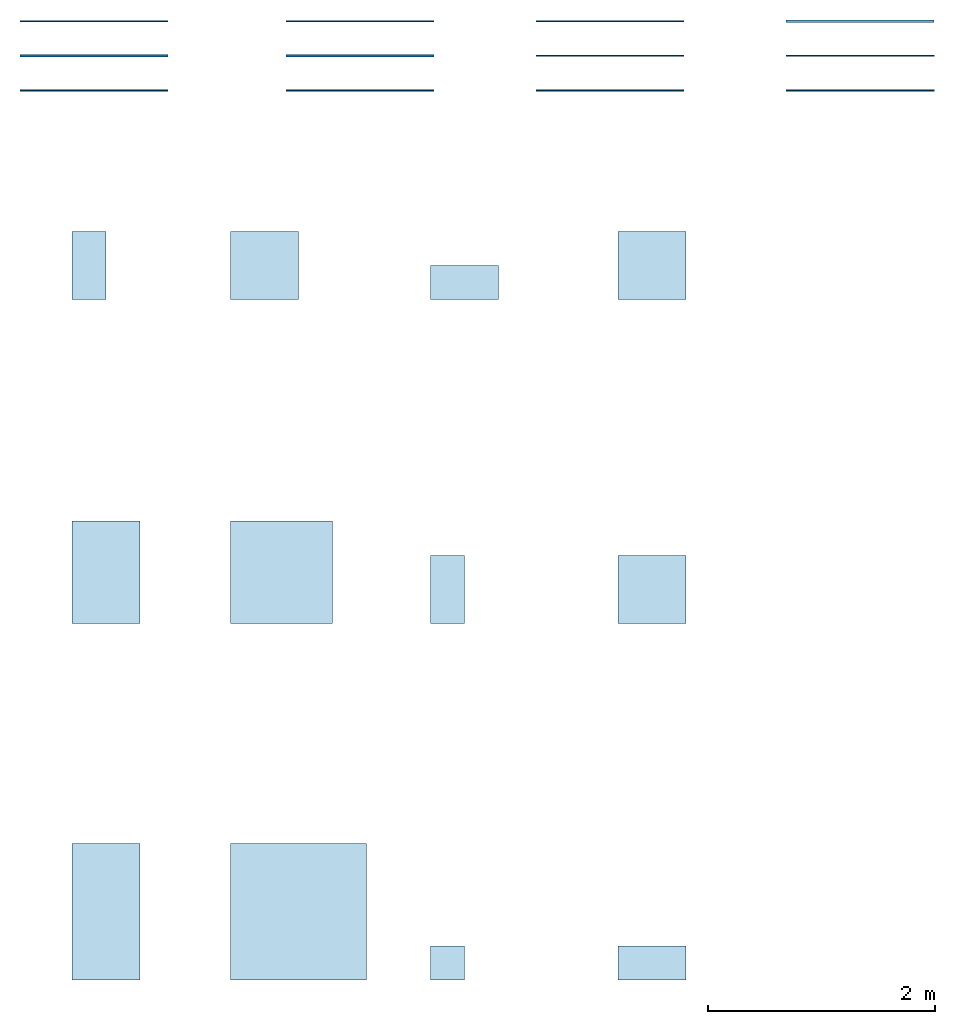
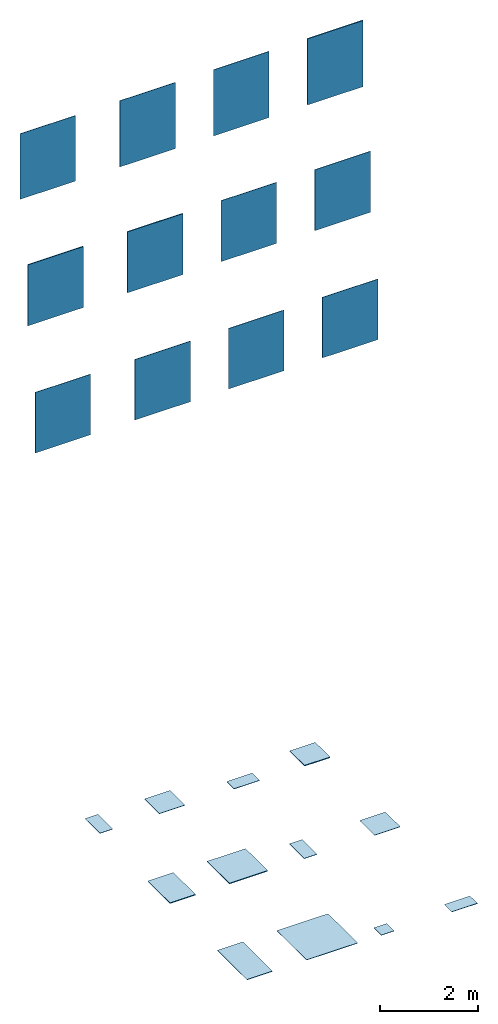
# One storey: 12 slabs, 12 walls.
"""IFC2X3 building model written with IfcOpenShell, lengths in millimetres."""

import ifcopenshell
import ifcopenshell.guid

model = None  # the IFC model being written
_history = None  # IfcOwnerHistory: only IFC2X3 demands one
_inside = {}  # id of a spatial element -> (the spatial element, [elements in it])
_under = {}  # id of a project, library or spatial element -> (it, [spatial elements below it])
_declared = {}  # id of a project -> (the project, [libraries it declares])
_typed = {}  # id of a type object -> (the type object, [elements of that type])
_made_of = {}  # id of a material, layer set ... -> (it, [elements and type objects made of it])


def new_model(schema):
    """Start an empty IFC model of exactly this schema.

    Asked for "IFC4X3", IfcOpenShell would pick the latest addendum, in which some entities
    have other attributes; the version numbers below select the first issue.
    IFC2X3 requires an IfcOwnerHistory on every rooted entity: one is made here for all.
    """
    global model, _history
    if schema == "IFC4X3":
        model = ifcopenshell.file(schema_version=(4, 3, 0, 0))
    else:
        model = ifcopenshell.file(schema=schema)
    _inside.clear()
    _under.clear()
    _declared.clear()
    _typed.clear()
    _made_of.clear()
    _history = None
    if model.schema == "IFC2X3":
        org = make("IfcOrganization", Name="unknown")
        user = make(
            "IfcPersonAndOrganization",
            ThePerson=make("IfcPerson", FamilyName="unknown"),
            TheOrganization=org,
        )
        app = make(
            "IfcApplication",
            ApplicationDeveloper=org,
            Version="unknown",
            ApplicationFullName="unknown",
            ApplicationIdentifier="unknown",
        )
        _history = make(
            "IfcOwnerHistory",
            OwningUser=user,
            OwningApplication=app,
            ChangeAction="ADDED",
            CreationDate=0,
        )
    return model


def make(cls, **values):
    """One entity of the class cls with the attributes given. An attribute that is None is left unset."""
    return model.create_entity(
        cls, **{name: value for name, value in values.items() if value is not None}
    )


def entity(cls, *values):
    """Any entity or typed value of the class cls, its attributes in the order of the schema. None: left unset."""
    e = model.create_entity(cls)
    for i, value in enumerate(values):
        if value is not None:
            e[i] = value
    return e


def rooted(cls, **values):
    """An entity with a GlobalId (a new one), such as an element, a storey or a relation."""
    return make(cls, GlobalId=ifcopenshell.guid.new(), OwnerHistory=_history, **values)


def si_unit(unit_type, name, prefix=None):
    """IfcSIUnit, for example si_unit("LENGTHUNIT", "METRE", prefix="MILLI")."""
    return make("IfcSIUnit", UnitType=unit_type, Prefix=prefix, Name=name)


def converted_unit(unit_type, name, factor, base, dimensions=None, offset=None):
    """IfcConversionBasedUnit, such as the inch: factor (a typed value) times the base unit."""
    return make(
        "IfcConversionBasedUnit"
        if offset is None
        else "IfcConversionBasedUnitWithOffset",
        ConversionOffset=offset,
        Dimensions=None
        if dimensions is None
        else entity("IfcDimensionalExponents", *dimensions),
        UnitType=unit_type,
        Name=name,
        ConversionFactor=make(
            "IfcMeasureWithUnit", ValueComponent=factor, UnitComponent=base
        ),
    )


def derived_unit(unit_type, elements):
    """IfcDerivedUnit: a product of units, each with its exponent."""
    return make(
        "IfcDerivedUnit",
        Elements=[
            make("IfcDerivedUnitElement", Unit=unit, Exponent=power)
            for unit, power in elements
        ],
        UnitType=unit_type,
    )


def assignment(units):
    """IfcUnitAssignment: the units of a project."""
    return None if units is None else make("IfcUnitAssignment", Units=units)


def point(xyz):
    """IfcCartesianPoint."""
    return None if xyz is None else make("IfcCartesianPoint", Coordinates=xyz)


def direction(xyz):
    """IfcDirection."""
    return None if xyz is None else make("IfcDirection", DirectionRatios=xyz)


def frame(location, z_axis=None, x_axis=None):
    """IfcAxis2Placement3D, a coordinate frame: its origin and axes. An axis left out is left unset."""
    return make(
        "IfcAxis2Placement3D",
        Location=point(location),
        Axis=direction(z_axis),
        RefDirection=direction(x_axis),
    )


def frame_2d(location, x_axis=None):
    """IfcAxis2Placement2D, a coordinate frame in the plane: its origin and x axis."""
    return make(
        "IfcAxis2Placement2D", Location=point(location), RefDirection=direction(x_axis)
    )


def origin():
    """The frame at (0, 0, 0) with its axes left unset."""
    return frame((0.0, 0.0, 0.0))


def origin_2d_with_axis():
    """The frame at (0, 0) in the plane with the x axis (1, 0) written out."""
    return frame_2d((0.0, 0.0), x_axis=(1.0, 0.0))


def place(relative_to, where):
    """IfcLocalPlacement: puts the frame where relative to a parent placement (None: the world)."""
    return make(
        "IfcLocalPlacement", PlacementRelTo=relative_to, RelativePlacement=where
    )


def context(
    kind, dimensions, precision=None, world=None, true_north=None, identifier=None
):
    """IfcGeometricRepresentationContext, for example the 3D "Model" context."""
    return make(
        "IfcGeometricRepresentationContext",
        ContextIdentifier=identifier,
        ContextType=kind,
        CoordinateSpaceDimension=dimensions,
        Precision=precision,
        WorldCoordinateSystem=world,
        TrueNorth=true_north,
    )


def subcontext(parent, identifier, kind, view, scale=None):
    """IfcGeometricRepresentationSubContext, for example "Body" below "Model"."""
    return make(
        "IfcGeometricRepresentationSubContext",
        ContextIdentifier=identifier,
        ContextType=kind,
        ParentContext=parent,
        TargetScale=scale,
        TargetView=view,
    )


def project(units=None, contexts=None):
    """IfcProject with its units and contexts."""
    return rooted(
        "IfcProject",
        Name="project",
        RepresentationContexts=contexts,
        UnitsInContext=assignment(units),
    )


def spatial(cls, under=None, at=None, **own):
    """A site, building, storey or space (cls), placed at a placement, below another one or the project."""
    s = rooted(cls, ObjectPlacement=at, **own)
    if under is not None:
        _under.setdefault(under.id(), (under, []))[1].append(s)
    return s


def profile(cls, at=None, kind="AREA", **sizes):
    """A parametric profile (cls). Its sizes go by their IFC names, for example OverallWidth=200.0."""
    return make(cls, ProfileType=kind, Position=at, **sizes)


def rectangle(**sizes):
    """IfcRectangleProfileDef."""
    return profile("IfcRectangleProfileDef", **sizes)


def extrude(swept, where, along, depth):
    """IfcExtrudedAreaSolid: the profile swept, set in the frame where, extruded along a direction by depth."""
    return make(
        "IfcExtrudedAreaSolid",
        SweptArea=swept,
        Position=where,
        ExtrudedDirection=direction(along),
        Depth=depth,
    )


def shape(context_of_items, identifier, shape_type, items):
    """IfcShapeRepresentation: the items that make up one representation, for example the "Body"."""
    return make(
        "IfcShapeRepresentation",
        ContextOfItems=context_of_items,
        RepresentationIdentifier=identifier,
        RepresentationType=shape_type,
        Items=items,
    )


def material(Name=None, Category=None):
    """IfcMaterial."""
    return make("IfcMaterial", Name=Name, Category=Category)


def layer(
    of_material, thickness, ventilated=None, Name=None, Category=None, Priority=None
):
    """IfcMaterialLayer: one layer of a wall or slab, of a material (None: an air gap)."""
    return make(
        "IfcMaterialLayer",
        Material=of_material,
        LayerThickness=thickness,
        IsVentilated=ventilated,
        Name=Name,
        Category=Category,
        Priority=Priority,
    )


def layer_set(layers, Name=None):
    """IfcMaterialLayerSet."""
    return make("IfcMaterialLayerSet", MaterialLayers=layers, LayerSetName=Name)


def layer_usage(for_layer_set, set_direction, sense, offset, extent=None):
    """IfcMaterialLayerSetUsage: how a layer set lies in its element."""
    return make(
        "IfcMaterialLayerSetUsage",
        ForLayerSet=for_layer_set,
        LayerSetDirection=set_direction,
        DirectionSense=sense,
        OffsetFromReferenceLine=offset,
        ReferenceExtent=extent,
    )


def made_of(thing, what):
    """Note that an element or type object is made of a material, layer set ...; save() writes the relation."""
    if what is not None:
        _made_of.setdefault(what.id(), (what, []))[1].append(thing)
    return thing


def type_object(cls, material=None, **own):
    """A type object (cls), such as IfcWallType, which elements share."""
    return made_of(rooted(cls, **own), material)


def element(
    cls,
    number,
    at=None,
    inside=None,
    cuts=None,
    type_object=None,
    material=None,
    context=None,
    identifier="Body",
    shape_type=None,
    held_by="IfcProductDefinitionShape",
    body=None,
    shapes=None,
    **own,
):
    """One element of the class cls, such as IfcWall. Its Tag is "e" and its number.

    at: its placement. inside: the storey or other place that contains it. cuts: it is an
    opening in that element (IfcRelVoidsElement). A single representation is given by context,
    identifier, shape_type and body (its items); several are given by shapes. held_by: the class
    of the entity that holds the representations. save() writes the other relations.
    """
    e = rooted(cls, Tag="e%d" % number, ObjectPlacement=at, **own)
    if body is not None:
        shapes = [shape(context, identifier, shape_type, body)]
    if shapes is not None:
        e.Representation = make(held_by, Representations=shapes)
    if inside is not None:
        _inside.setdefault(inside.id(), (inside, []))[1].append(e)
    if cuts is not None:
        rooted(
            "IfcRelVoidsElement", RelatingBuildingElement=cuts, RelatedOpeningElement=e
        )
    if type_object is not None:
        _typed.setdefault(type_object.id(), (type_object, []))[1].append(e)
    return made_of(e, material)


def aggregate(whole, parts):
    """IfcRelAggregates: a whole, such as a stair, and the parts it consists of."""
    return rooted("IfcRelAggregates", RelatingObject=whole, RelatedObjects=parts)


def save(model, path):
    """Write the relations noted so far, then the file.

    IfcRelAggregates (storeys below a building ...), IfcRelContainedInSpatialStructure (elements
    in a storey), IfcRelDefinesByType, IfcRelAssociatesMaterial and IfcRelDeclares: one each for
    every whole, place, type object, material and project.
    """
    for whole, parts in _under.values():
        aggregate(whole, parts)
    for where, things in _inside.values():
        rooted(
            "IfcRelContainedInSpatialStructure",
            RelatedElements=things,
            RelatingStructure=where,
        )
    for kind, things in _typed.values():
        rooted("IfcRelDefinesByType", RelatedObjects=things, RelatingType=kind)
    for what, things in _made_of.values():
        rooted("IfcRelAssociatesMaterial", RelatedObjects=things, RelatingMaterial=what)
    for by, libraries in _declared.values():
        rooted("IfcRelDeclares", RelatingContext=by, RelatedDefinitions=libraries)
    model.write(path)


model = new_model("IFC2X3")

# Units and contexts
model_context = context("Model", 3, precision=0.01, world=origin(), true_north=direction((6.12303176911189e-17, 1.0)))
body_context = subcontext(model_context, "Body", "Model", "MODEL_VIEW")
ifc_project = project(units=[si_unit("LENGTHUNIT", "METRE", prefix="MILLI"), si_unit("AREAUNIT", "SQUARE_METRE"), si_unit("VOLUMEUNIT", "CUBIC_METRE"), converted_unit("PLANEANGLEUNIT", "DEGREE", entity("IfcRatioMeasure", 0.0174532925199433), si_unit("PLANEANGLEUNIT", "RADIAN"), dimensions=[0, 0, 0, 0, 0, 0, 0]), si_unit("MASSUNIT", "GRAM", prefix="KILO"), derived_unit("MASSDENSITYUNIT", [(si_unit("MASSUNIT", "GRAM", prefix="KILO"), 1), (si_unit("LENGTHUNIT", "METRE"), -3)]), derived_unit("MOMENTOFINERTIAUNIT", [(si_unit("LENGTHUNIT", "METRE"), 4)]), si_unit("TIMEUNIT", "SECOND"), si_unit("FREQUENCYUNIT", "HERTZ"), si_unit("THERMODYNAMICTEMPERATUREUNIT", "DEGREE_CELSIUS"), derived_unit("THERMALTRANSMITTANCEUNIT", [(si_unit("MASSUNIT", "GRAM", prefix="KILO"), 1), (si_unit("THERMODYNAMICTEMPERATUREUNIT", "KELVIN"), -1), (si_unit("TIMEUNIT", "SECOND"), -3)]), derived_unit("VOLUMETRICFLOWRATEUNIT", [(si_unit("LENGTHUNIT", "METRE"), 3), (si_unit("TIMEUNIT", "SECOND"), -1)]), si_unit("ELECTRICCURRENTUNIT", "AMPERE"), si_unit("ELECTRICVOLTAGEUNIT", "VOLT"), si_unit("POWERUNIT", "WATT"), si_unit("FORCEUNIT", "NEWTON", prefix="KILO"), si_unit("ILLUMINANCEUNIT", "LUX"), si_unit("LUMINOUSFLUXUNIT", "LUMEN"), si_unit("LUMINOUSINTENSITYUNIT", "CANDELA"), derived_unit("USERDEFINED", [(si_unit("MASSUNIT", "GRAM", prefix="KILO"), -1), (si_unit("LENGTHUNIT", "METRE"), -2), (si_unit("TIMEUNIT", "SECOND"), 3), (si_unit("LUMINOUSFLUXUNIT", "LUMEN"), 1)]), derived_unit("LINEARVELOCITYUNIT", [(si_unit("LENGTHUNIT", "METRE"), 1), (si_unit("TIMEUNIT", "SECOND"), -1)]), si_unit("PRESSUREUNIT", "PASCAL"), derived_unit("USERDEFINED", [(si_unit("LENGTHUNIT", "METRE"), -2), (si_unit("MASSUNIT", "GRAM", prefix="KILO"), 1), (si_unit("TIMEUNIT", "SECOND"), -2)]), derived_unit("LINEARFORCEUNIT", [(si_unit("MASSUNIT", "GRAM", prefix="KILO"), 1), (si_unit("LENGTHUNIT", "METRE"), 1), (si_unit("TIMEUNIT", "SECOND"), -2), (si_unit("LENGTHUNIT", "METRE"), -1)]), derived_unit("PLANARFORCEUNIT", [(si_unit("MASSUNIT", "GRAM", prefix="KILO"), 1), (si_unit("LENGTHUNIT", "METRE"), 1), (si_unit("TIMEUNIT", "SECOND"), -2), (si_unit("LENGTHUNIT", "METRE"), -2)])], contexts=[model_context])

# Site, building, storey
site_placement = place(None, origin())
site = spatial("IfcSite", under=ifc_project, at=site_placement, Name="Default", CompositionType="ELEMENT")
building_placement = place(site_placement, origin())
building = spatial("IfcBuilding", under=site, at=building_placement, CompositionType="ELEMENT")
storey_placement = place(building_placement, origin())
storey = spatial("IfcBuildingStorey", under=building, at=storey_placement, Name="Level 0", CompositionType="ELEMENT", Elevation=0.0)

# Slabs
ifc_material_1 = material(Name="Tune-Lava-Muretto-3D-30x60 MK48")
ifc_layer_1 = layer(ifc_material_1, 10.0)
ifc_material_2 = material(Name="<Unnamed>")
ifc_layer_2 = layer(ifc_material_2, 1.0)
ifc_layer_set_1 = layer_set([ifc_layer_1, ifc_layer_2], Name="Floor:Floor_Tiles_Refin-Tune-Lava-Muretto-3D-30x60 MK48")
ifc_layer_usage_1 = layer_usage(ifc_layer_set_1, "AXIS3", "POSITIVE", 0.0)
slab_type_1 = type_object("IfcSlabType", Name="Floor:Floor_Tiles_Refin-Tune-Lava-Muretto-3D-30x60 MK48", PredefinedType="FLOOR", material=ifc_layer_set_1)
slab_1_placement = place(storey_placement, origin())
element("IfcSlab", 1, at=slab_1_placement, inside=storey, type_object=slab_type_1, material=ifc_layer_usage_1, Name="Floor:Floor_Tiles_Refin-Tune-Lava-Muretto-3D-30x60 MK48", ObjectType="Floor:Floor_Tiles_Refin-Tune-Lava-Muretto-3D-30x60 MK48", PredefinedType="FLOOR", context=body_context, shape_type="SweptSolid", body=[
    extrude(rectangle(XDim=300.0, YDim=600.0, at=frame_2d((-5.40012479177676e-13, 1.08002495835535e-12), x_axis=(1.0, 0.0))), frame((9827.18614186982, 5839.46237428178, 0.0), z_axis=(0.0, 0.0, -1.0), x_axis=(0.0, 1.0, 0.0)), (0.0, 0.0, 1.0), 11.0),
])
ifc_material_3 = material(Name="Tune-Lava-30x60 NB07")
ifc_layer_3 = layer(ifc_material_3, 9.0)
ifc_layer_4 = layer(ifc_material_2, 1.0)
ifc_layer_set_2 = layer_set([ifc_layer_3, ifc_layer_4], Name="Floor:Floor_Tiles_Refin-Tune-Lava-30x60 NB07")
ifc_layer_usage_2 = layer_usage(ifc_layer_set_2, "AXIS3", "POSITIVE", 0.0)
slab_type_2 = type_object("IfcSlabType", Name="Floor:Floor_Tiles_Refin-Tune-Lava-30x60 NB07", PredefinedType="FLOOR", material=ifc_layer_set_2)
slab_2_placement = place(storey_placement, origin())
element("IfcSlab", 2, at=slab_2_placement, inside=storey, type_object=slab_type_2, material=ifc_layer_usage_2, Name="Floor:Floor_Tiles_Refin-Tune-Lava-30x60 NB07", ObjectType="Floor:Floor_Tiles_Refin-Tune-Lava-30x60 NB07", PredefinedType="FLOOR", context=body_context, shape_type="SweptSolid", body=[
    extrude(rectangle(XDim=600.0, YDim=300.0, at=frame_2d((0.0, -5.40012479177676e-13), x_axis=(1.0, 0.0))), frame((6524.37520617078, 5989.4623742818, 0.0), z_axis=(0.0, 0.0, -1.0), x_axis=(0.0, 1.0, 0.0)), (0.0, 0.0, 1.0), 10.0),
])
ifc_material_4 = material(Name="Tune-Lava-OUT2.0-90x90 NA07")
ifc_layer_5 = layer(ifc_material_4, 20.0)
ifc_layer_6 = layer(ifc_material_2, 1.0)
ifc_layer_set_3 = layer_set([ifc_layer_5, ifc_layer_6], Name="Floor:Floor_Tiles_Refin-Tune-Lava-OUT2.0-90x90 NA07")
ifc_layer_usage_3 = layer_usage(ifc_layer_set_3, "AXIS3", "POSITIVE", 0.0)
slab_type_3 = type_object("IfcSlabType", Name="Floor:Floor_Tiles_Refin-Tune-Lava-OUT2.0-90x90 NA07", PredefinedType="FLOOR", material=ifc_layer_set_3)
slab_3_placement = place(storey_placement, origin())
element("IfcSlab", 3, at=slab_3_placement, inside=storey, type_object=slab_type_3, material=ifc_layer_usage_3, Name="Floor:Floor_Tiles_Refin-Tune-Lava-OUT2.0-90x90 NA07", ObjectType="Floor:Floor_Tiles_Refin-Tune-Lava-OUT2.0-90x90 NA07", PredefinedType="FLOOR", context=body_context, shape_type="SweptSolid", body=[
    extrude(rectangle(XDim=900.0, YDim=900.0, at=frame_2d((0.0, 5.40012479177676e-13), x_axis=(1.0, 0.0))), frame((8217.39240545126, 3289.4623742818, 0.0), z_axis=(0.0, 0.0, -1.0), x_axis=(0.0, 1.0, 0.0)), (0.0, 0.0, 1.0), 21.0),
])
ifc_material_5 = material(Name="Tune-Lava-OUT2.0-60x90 NH50")
ifc_layer_7 = layer(ifc_material_5, 20.0)
ifc_layer_8 = layer(ifc_material_2, 1.0)
ifc_layer_set_4 = layer_set([ifc_layer_7, ifc_layer_8], Name="Floor:Floor_Tiles_Refin-Tune-Lava-OUT2.0-60x90 NH50")
ifc_layer_usage_4 = layer_usage(ifc_layer_set_4, "AXIS3", "POSITIVE", 0.0)
slab_type_4 = type_object("IfcSlabType", Name="Floor:Floor_Tiles_Refin-Tune-Lava-OUT2.0-60x90 NH50", PredefinedType="FLOOR", material=ifc_layer_set_4)
slab_4_placement = place(storey_placement, origin())
element("IfcSlab", 4, at=slab_4_placement, inside=storey, type_object=slab_type_4, material=ifc_layer_usage_4, Name="Floor:Floor_Tiles_Refin-Tune-Lava-OUT2.0-60x90 NH50", ObjectType="Floor:Floor_Tiles_Refin-Tune-Lava-OUT2.0-60x90 NH50", PredefinedType="FLOOR", context=body_context, shape_type="SweptSolid", body=[
    extrude(rectangle(XDim=900.0, YDim=600.0, at=frame_2d((-5.40012479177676e-13, 1.08002495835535e-12), x_axis=(1.0, 0.0))), frame((6674.37520617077, 3289.4623742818, 0.0), z_axis=(0.0, 0.0, -1.0), x_axis=(0.0, 1.0, 0.0)), (0.0, 0.0, 1.0), 21.0),
])
ifc_material_6 = material(Name="Tune-Lava-60x60 NB19")
ifc_layer_9 = layer(ifc_material_6, 9.0)
ifc_layer_10 = layer(ifc_material_2, 1.0)
ifc_layer_set_5 = layer_set([ifc_layer_9, ifc_layer_10], Name="Floor:Floor_Tiles_Refin-Tune-Lava-60x60 NB19")
ifc_layer_usage_5 = layer_usage(ifc_layer_set_5, "AXIS3", "POSITIVE", 0.0)
slab_type_5 = type_object("IfcSlabType", Name="Floor:Floor_Tiles_Refin-Tune-Lava-60x60 NB19", PredefinedType="FLOOR", material=ifc_layer_set_5)
slab_5_placement = place(storey_placement, origin())
element("IfcSlab", 5, at=slab_5_placement, inside=storey, type_object=slab_type_5, material=ifc_layer_usage_5, Name="Floor:Floor_Tiles_Refin-Tune-Lava-60x60 NB19", ObjectType="Floor:Floor_Tiles_Refin-Tune-Lava-60x60 NB19", PredefinedType="FLOOR", context=body_context, shape_type="SweptSolid", body=[
    extrude(rectangle(XDim=600.0, YDim=600.0, at=origin_2d_with_axis()), frame((8067.39240545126, 5988.41920639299, 0.0), z_axis=(0.0, 0.0, -1.0), x_axis=(0.0, 1.0, 0.0)), (0.0, 0.0, 1.0), 10.0),
])
ifc_material_7 = material(Name="Tune-Lava-Soft-60x120 NA86")
ifc_layer_11 = layer(ifc_material_7, 9.0)
ifc_layer_12 = layer(ifc_material_2, 1.0)
ifc_layer_set_6 = layer_set([ifc_layer_11, ifc_layer_12], Name="Floor:Floor_Tiles_Refin-Tune-Lava-Soft-60x120 NA86")
ifc_layer_usage_6 = layer_usage(ifc_layer_set_6, "AXIS3", "POSITIVE", 0.0)
slab_type_6 = type_object("IfcSlabType", Name="Floor:Floor_Tiles_Refin-Tune-Lava-Soft-60x120 NA86", PredefinedType="FLOOR", material=ifc_layer_set_6)
slab_6_placement = place(storey_placement, origin())
element("IfcSlab", 6, at=slab_6_placement, inside=storey, type_object=slab_type_6, material=ifc_layer_usage_6, Name="Floor:Floor_Tiles_Refin-Tune-Lava-Soft-60x120 NA86", ObjectType="Floor:Floor_Tiles_Refin-Tune-Lava-Soft-60x120 NA86", PredefinedType="FLOOR", context=body_context, shape_type="SweptSolid", body=[
    extrude(rectangle(XDim=1200.0, YDim=600.0, at=frame_2d((0.0, 1.08002495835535e-12), x_axis=(1.0, 0.0))), frame((6672.60093306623, 303.436723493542, 0.0), z_axis=(0.0, 0.0, -1.0), x_axis=(0.0, 1.0, 0.0)), (0.0, 0.0, 1.0), 10.0),
])
ifc_material_8 = material(Name="Tune-Lava-OUT2.0-60x60 NH54")
ifc_layer_13 = layer(ifc_material_8, 20.0)
ifc_layer_14 = layer(ifc_material_2, 1.0)
ifc_layer_set_7 = layer_set([ifc_layer_13, ifc_layer_14], Name="Floor:Floor_Tiles_Refin-Tune-Lava-OUT2.0-60x60 NH54")
ifc_layer_usage_7 = layer_usage(ifc_layer_set_7, "AXIS3", "POSITIVE", 0.0)
slab_type_7 = type_object("IfcSlabType", Name="Floor:Floor_Tiles_Refin-Tune-Lava-OUT2.0-60x60 NH54", PredefinedType="FLOOR", material=ifc_layer_set_7)
slab_7_placement = place(storey_placement, origin())
element("IfcSlab", 7, at=slab_7_placement, inside=storey, type_object=slab_type_7, material=ifc_layer_usage_7, Name="Floor:Floor_Tiles_Refin-Tune-Lava-OUT2.0-60x60 NH54", ObjectType="Floor:Floor_Tiles_Refin-Tune-Lava-OUT2.0-60x60 NH54", PredefinedType="FLOOR", context=body_context, shape_type="SweptSolid", body=[
    extrude(rectangle(XDim=600.0, YDim=600.0, at=frame_2d((0.0, 1.08002495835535e-12), x_axis=(1.0, 0.0))), frame((11477.1861418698, 5989.46237428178, 0.0), z_axis=(0.0, 0.0, -1.0), x_axis=(0.0, 1.0, 0.0)), (0.0, 0.0, 1.0), 21.0),
])
ifc_material_9 = material(Name="Tune-Lava-Soft-30x60 NB08")
ifc_layer_15 = layer(ifc_material_9, 9.0)
ifc_layer_16 = layer(ifc_material_2, 1.0)
ifc_layer_set_8 = layer_set([ifc_layer_15, ifc_layer_16], Name="Floor:Floor_Tiles_Refin-Tune-Lava-Soft-30x60 NB08")
ifc_layer_usage_8 = layer_usage(ifc_layer_set_8, "AXIS3", "POSITIVE", 0.0)
slab_type_8 = type_object("IfcSlabType", Name="Floor:Floor_Tiles_Refin-Tune-Lava-Soft-30x60 NB08", PredefinedType="FLOOR", material=ifc_layer_set_8)
slab_8_placement = place(storey_placement, origin())
element("IfcSlab", 8, at=slab_8_placement, inside=storey, type_object=slab_type_8, material=ifc_layer_usage_8, Name="Floor:Floor_Tiles_Refin-Tune-Lava-Soft-30x60 NB08", ObjectType="Floor:Floor_Tiles_Refin-Tune-Lava-Soft-30x60 NB08", PredefinedType="FLOOR", context=body_context, shape_type="SweptSolid", body=[
    extrude(rectangle(XDim=600.0, YDim=300.000000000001, at=origin_2d_with_axis()), frame((9677.18614186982, 3139.46237428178, 0.0), z_axis=(0.0, 0.0, -1.0), x_axis=(0.0, 1.0, 0.0)), (0.0, 0.0, 1.0), 10.0),
])
ifc_material_10 = material(Name="Tune-Lava-Mosaico-Soft-30x30 NA42")
ifc_layer_17 = layer(ifc_material_10, 9.0)
ifc_layer_18 = layer(ifc_material_2, 1.0)
ifc_layer_set_9 = layer_set([ifc_layer_17, ifc_layer_18], Name="Floor:Floor_Tiles_Refin-Tune-Lava-Mosaico-Soft-30x30 NA42")
ifc_layer_usage_9 = layer_usage(ifc_layer_set_9, "AXIS3", "POSITIVE", 0.0)
slab_type_9 = type_object("IfcSlabType", Name="Floor:Floor_Tiles_Refin-Tune-Lava-Mosaico-Soft-30x30 NA42", PredefinedType="FLOOR", material=ifc_layer_set_9)
slab_9_placement = place(storey_placement, origin())
element("IfcSlab", 9, at=slab_9_placement, inside=storey, type_object=slab_type_9, material=ifc_layer_usage_9, Name="Floor:Floor_Tiles_Refin-Tune-Lava-Mosaico-Soft-30x30 NA42", ObjectType="Floor:Floor_Tiles_Refin-Tune-Lava-Mosaico-Soft-30x30 NA42", PredefinedType="FLOOR", context=body_context, shape_type="SweptSolid", body=[
    extrude(rectangle(XDim=300.0, YDim=300.000000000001, at=origin_2d_with_axis()), frame((9677.18614186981, -146.563276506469, 0.0), z_axis=(0.0, 0.0, -1.0), x_axis=(0.0, 1.0, 0.0)), (0.0, 0.0, 1.0), 10.0),
])
ifc_material_11 = material(Name="Tune-Lava-Soft-60x60 NB20")
ifc_layer_19 = layer(ifc_material_11, 9.0)
ifc_layer_20 = layer(ifc_material_2, 1.0)
ifc_layer_set_10 = layer_set([ifc_layer_19, ifc_layer_20], Name="Floor:Floor_Tiles_Refin-Tune-Lava-Soft-60x60 NB20")
ifc_layer_usage_10 = layer_usage(ifc_layer_set_10, "AXIS3", "POSITIVE", 0.0)
slab_type_10 = type_object("IfcSlabType", Name="Floor:Floor_Tiles_Refin-Tune-Lava-Soft-60x60 NB20", PredefinedType="FLOOR", material=ifc_layer_set_10)
slab_10_placement = place(storey_placement, origin())
element("IfcSlab", 10, at=slab_10_placement, inside=storey, type_object=slab_type_10, material=ifc_layer_usage_10, Name="Floor:Floor_Tiles_Refin-Tune-Lava-Soft-60x60 NB20", ObjectType="Floor:Floor_Tiles_Refin-Tune-Lava-Soft-60x60 NB20", PredefinedType="FLOOR", context=body_context, shape_type="SweptSolid", body=[
    extrude(rectangle(XDim=600.0, YDim=600.0, at=frame_2d((0.0, 1.08002495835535e-12), x_axis=(1.0, 0.0))), frame((11477.1861418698, 3139.46237428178, 0.0), z_axis=(0.0, 0.0, -1.0), x_axis=(0.0, 1.0, 0.0)), (0.0, 0.0, 1.0), 10.0),
])
ifc_material_12 = material(Name="Tune-Lava-Soft-120x120 MK13")
ifc_layer_21 = layer(ifc_material_12, 9.0)
ifc_layer_22 = layer(ifc_material_2, 1.0)
ifc_layer_set_11 = layer_set([ifc_layer_21, ifc_layer_22], Name="Floor:Floor_Tiles_Refin-Tune-Lava-Soft-120x120 MK13")
ifc_layer_usage_11 = layer_usage(ifc_layer_set_11, "AXIS3", "POSITIVE", 0.0)
slab_type_11 = type_object("IfcSlabType", Name="Floor:Floor_Tiles_Refin-Tune-Lava-Soft-120x120 MK13", PredefinedType="FLOOR", material=ifc_layer_set_11)
slab_11_placement = place(storey_placement, origin())
element("IfcSlab", 11, at=slab_11_placement, inside=storey, type_object=slab_type_11, material=ifc_layer_usage_11, Name="Floor:Floor_Tiles_Refin-Tune-Lava-Soft-120x120 MK13", ObjectType="Floor:Floor_Tiles_Refin-Tune-Lava-Soft-120x120 MK13", PredefinedType="FLOOR", context=body_context, shape_type="SweptSolid", body=[
    extrude(rectangle(XDim=1200.0, YDim=1200.0, at=origin_2d_with_axis()), frame((8367.39240545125, 303.436723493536, 0.0), z_axis=(0.0, 0.0, -1.0), x_axis=(0.0, 1.0, 0.0)), (0.0, 0.0, 1.0), 10.0),
])
ifc_material_13 = material(Name="Tune-Lava-Mosaico-Linea-Soft-30x60 NA21")
ifc_layer_23 = layer(ifc_material_13, 9.0)
ifc_layer_24 = layer(ifc_material_2, 1.0)
ifc_layer_set_12 = layer_set([ifc_layer_23, ifc_layer_24], Name="Floor:Floor_Tiles_Refin-Tune-Lava-Mosaico-Linea-Soft-30x60 NA21")
ifc_layer_usage_12 = layer_usage(ifc_layer_set_12, "AXIS3", "POSITIVE", 0.0)
slab_type_12 = type_object("IfcSlabType", Name="Floor:Floor_Tiles_Refin-Tune-Lava-Mosaico-Linea-Soft-30x60 NA21", PredefinedType="FLOOR", material=ifc_layer_set_12)
slab_12_placement = place(storey_placement, origin())
element("IfcSlab", 12, at=slab_12_placement, inside=storey, type_object=slab_type_12, material=ifc_layer_usage_12, Name="Floor:Floor_Tiles_Refin-Tune-Lava-Mosaico-Linea-Soft-30x60 NA21", ObjectType="Floor:Floor_Tiles_Refin-Tune-Lava-Mosaico-Linea-Soft-30x60 NA21", PredefinedType="FLOOR", context=body_context, shape_type="SweptSolid", body=[
    extrude(rectangle(XDim=300.0, YDim=600.0, at=frame_2d((0.0, 1.08002495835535e-12), x_axis=(1.0, 0.0))), frame((11477.1861418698, -146.563276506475, 0.0), z_axis=(0.0, 0.0, -1.0), x_axis=(0.0, 1.0, 0.0)), (0.0, 0.0, 1.0), 10.0),
])

# Walls
ifc_layer_25 = layer(ifc_material_2, 1.0)
ifc_layer_26 = layer(ifc_material_6, 9.0)
ifc_layer_set_13 = layer_set([ifc_layer_25, ifc_layer_26], Name="Basic Wall:Wall_Tiles_Refin-Tune-Lava-60x60 NB19")
ifc_layer_usage_13 = layer_usage(ifc_layer_set_13, "AXIS2", "NEGATIVE", 5.0)
wall_type_1 = type_object("IfcWallType", Name="Basic Wall:Wall_Tiles_Refin-Tune-Lava-60x60 NB19", PredefinedType="STANDARD", material=ifc_layer_set_13)
wall_1_placement = place(storey_placement, frame((8257.37520617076, 8137.38386313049, 14387.6770443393)))
element("IfcWallStandardCase", 13, at=wall_1_placement, inside=storey, type_object=wall_type_1, material=ifc_layer_usage_13, Name="Basic Wall:Wall_Tiles_Refin-Tune-Lava-60x60 NB19", ObjectType="Basic Wall:Wall_Tiles_Refin-Tune-Lava-60x60 NB19", context=body_context, shape_type="SweptSolid", body=[
    extrude(rectangle(XDim=1300.0, YDim=9.99999999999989, at=frame_2d((650.0, 7.63833440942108e-14), x_axis=(-1.0, 0.0))), origin(), (0.0, 0.0, 1.0), 1641.74173522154),
])
ifc_layer_27 = layer(ifc_material_2, 1.0)
ifc_layer_28 = layer(ifc_material_1, 10.0)
ifc_layer_set_14 = layer_set([ifc_layer_27, ifc_layer_28], Name="Basic Wall:Wall_Tiles_Refin-Tune-Lava-Muretto-3D-30x60 MK48")
ifc_layer_usage_14 = layer_usage(ifc_layer_set_14, "AXIS2", "NEGATIVE", 5.5)
wall_type_2 = type_object("IfcWallType", Name="Basic Wall:Wall_Tiles_Refin-Tune-Lava-Muretto-3D-30x60 MK48", PredefinedType="STANDARD", material=ifc_layer_set_14)
wall_2_placement = place(storey_placement, frame((10457.3752061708, 8137.38386313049, 14387.6770443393)))
element("IfcWallStandardCase", 14, at=wall_2_placement, inside=storey, type_object=wall_type_2, material=ifc_layer_usage_14, Name="Basic Wall:Wall_Tiles_Refin-Tune-Lava-Muretto-3D-30x60 MK48", ObjectType="Basic Wall:Wall_Tiles_Refin-Tune-Lava-Muretto-3D-30x60 MK48", context=body_context, shape_type="SweptSolid", body=[
    extrude(rectangle(XDim=1300.0, YDim=10.9999999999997, at=frame_2d((650.0, 7.63833440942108e-14), x_axis=(-1.0, 0.0))), origin(), (0.0, 0.0, 1.0), 1641.74173522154),
])
ifc_layer_29 = layer(ifc_material_2, 1.0)
ifc_layer_30 = layer(ifc_material_3, 9.0)
ifc_layer_set_15 = layer_set([ifc_layer_29, ifc_layer_30], Name="Basic Wall:Wall_Tiles_Refin-Tune-Lava-30x60 NB07")
ifc_layer_usage_15 = layer_usage(ifc_layer_set_15, "AXIS2", "NEGATIVE", 5.0)
wall_type_3 = type_object("IfcWallType", Name="Basic Wall:Wall_Tiles_Refin-Tune-Lava-30x60 NB07", PredefinedType="STANDARD", material=ifc_layer_set_15)
wall_3_placement = place(storey_placement, frame((5917.37520617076, 8137.38386313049, 14403.726734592)))
element("IfcWallStandardCase", 15, at=wall_3_placement, inside=storey, type_object=wall_type_3, material=ifc_layer_usage_15, Name="Basic Wall:Wall_Tiles_Refin-Tune-Lava-30x60 NB07", ObjectType="Basic Wall:Wall_Tiles_Refin-Tune-Lava-30x60 NB07", context=body_context, shape_type="SweptSolid", body=[
    extrude(rectangle(XDim=1300.0, YDim=9.99999999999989, at=frame_2d((650.0, 7.63833440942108e-14), x_axis=(-1.0, 0.0))), origin(), (0.0, 0.0, 1.0), 1625.69204496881),
])
ifc_layer_31 = layer(ifc_material_2, 1.0)
ifc_layer_32 = layer(ifc_material_5, 20.0)
ifc_layer_set_16 = layer_set([ifc_layer_31, ifc_layer_32], Name="Basic Wall:Wall_Tiles_Refin-Tune-Lava-OUT2.0-60x90 NH50")
ifc_layer_usage_16 = layer_usage(ifc_layer_set_16, "AXIS2", "NEGATIVE", 10.5)
wall_type_4 = type_object("IfcWallType", Name="Basic Wall:Wall_Tiles_Refin-Tune-Lava-OUT2.0-60x90 NH50", PredefinedType="STANDARD", material=ifc_layer_set_16)
wall_4_placement = place(storey_placement, frame((5917.37520617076, 7832.38386313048, 11452.5436262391)))
element("IfcWallStandardCase", 16, at=wall_4_placement, inside=storey, type_object=wall_type_4, material=ifc_layer_usage_16, Name="Basic Wall:Wall_Tiles_Refin-Tune-Lava-OUT2.0-60x90 NH50", ObjectType="Basic Wall:Wall_Tiles_Refin-Tune-Lava-OUT2.0-60x90 NH50", context=body_context, shape_type="SweptSolid", body=[
    extrude(rectangle(XDim=1300.0, YDim=20.9999999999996, at=frame_2d((650.0, 0.0), x_axis=(-1.0, 0.0))), origin(), (0.0, 0.0, 1.0), 1513.19855655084),
])
ifc_layer_33 = layer(ifc_material_2, 1.0)
ifc_layer_34 = layer(ifc_material_4, 20.0)
ifc_layer_set_17 = layer_set([ifc_layer_33, ifc_layer_34], Name="Basic Wall:Wall_Tiles_Refin-Tune-Lava-OUT2.0-90x90 NA07")
ifc_layer_usage_17 = layer_usage(ifc_layer_set_17, "AXIS2", "NEGATIVE", 10.5)
wall_type_5 = type_object("IfcWallType", Name="Basic Wall:Wall_Tiles_Refin-Tune-Lava-OUT2.0-90x90 NA07", PredefinedType="STANDARD", material=ifc_layer_set_17)
wall_5_placement = place(storey_placement, frame((8257.37520617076, 7832.38386313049, 11452.5436262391)))
element("IfcWallStandardCase", 17, at=wall_5_placement, inside=storey, type_object=wall_type_5, material=ifc_layer_usage_17, Name="Basic Wall:Wall_Tiles_Refin-Tune-Lava-OUT2.0-90x90 NA07", ObjectType="Basic Wall:Wall_Tiles_Refin-Tune-Lava-OUT2.0-90x90 NA07", context=body_context, shape_type="SweptSolid", body=[
    extrude(rectangle(XDim=1300.0, YDim=20.9999999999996, at=frame_2d((650.0, 0.0), x_axis=(-1.0, 0.0))), origin(), (0.0, 0.0, 1.0), 1513.19855655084),
])
ifc_layer_35 = layer(ifc_material_2, 1.0)
ifc_layer_36 = layer(ifc_material_9, 9.0)
ifc_layer_set_18 = layer_set([ifc_layer_35, ifc_layer_36], Name="Basic Wall:Wall_Tiles_Refin-Tune-Lava-Soft-30x60 NB08")
ifc_layer_usage_18 = layer_usage(ifc_layer_set_18, "AXIS2", "NEGATIVE", 5.0)
wall_type_6 = type_object("IfcWallType", Name="Basic Wall:Wall_Tiles_Refin-Tune-Lava-Soft-30x60 NB08", PredefinedType="STANDARD", material=ifc_layer_set_18)
wall_6_placement = place(storey_placement, frame((10457.3752061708, 7832.38386313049, 11452.5436262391)))
element("IfcWallStandardCase", 18, at=wall_6_placement, inside=storey, type_object=wall_type_6, material=ifc_layer_usage_18, Name="Basic Wall:Wall_Tiles_Refin-Tune-Lava-Soft-30x60 NB08", ObjectType="Basic Wall:Wall_Tiles_Refin-Tune-Lava-Soft-30x60 NB08", context=body_context, shape_type="SweptSolid", body=[
    extrude(rectangle(XDim=1300.0, YDim=9.99999999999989, at=frame_2d((650.000000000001, 0.0), x_axis=(-1.0, 0.0))), origin(), (0.0, 0.0, 1.0), 1513.19855655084),
])
ifc_layer_37 = layer(ifc_material_2, 1.0)
ifc_layer_38 = layer(ifc_material_7, 9.0)
ifc_layer_set_19 = layer_set([ifc_layer_37, ifc_layer_38], Name="Basic Wall:Wall_Tiles_Refin-Tune-Lava-Soft-60x120 NA86")
ifc_layer_usage_19 = layer_usage(ifc_layer_set_19, "AXIS2", "NEGATIVE", 5.0)
wall_type_7 = type_object("IfcWallType", Name="Basic Wall:Wall_Tiles_Refin-Tune-Lava-Soft-60x120 NA86", PredefinedType="STANDARD", material=ifc_layer_set_19)
wall_7_placement = place(storey_placement, frame((5917.37520617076, 7527.38386313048, 8479.10272143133)))
element("IfcWallStandardCase", 19, at=wall_7_placement, inside=storey, type_object=wall_type_7, material=ifc_layer_usage_19, Name="Basic Wall:Wall_Tiles_Refin-Tune-Lava-Soft-60x120 NA86", ObjectType="Basic Wall:Wall_Tiles_Refin-Tune-Lava-Soft-60x120 NA86", context=body_context, shape_type="SweptSolid", body=[
    extrude(rectangle(XDim=1300.0, YDim=9.99999999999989, at=frame_2d((650.0, 0.0), x_axis=(-1.0, 0.0))), origin(), (0.0, 0.0, 1.0), 1502.57401590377),
])
ifc_layer_39 = layer(ifc_material_2, 1.0)
ifc_layer_40 = layer(ifc_material_12, 9.0)
ifc_layer_set_20 = layer_set([ifc_layer_39, ifc_layer_40], Name="Basic Wall:Wall_Tiles_Refin-Tune-Lava-Soft-120x120 MK13")
ifc_layer_usage_20 = layer_usage(ifc_layer_set_20, "AXIS2", "NEGATIVE", 5.0)
wall_type_8 = type_object("IfcWallType", Name="Basic Wall:Wall_Tiles_Refin-Tune-Lava-Soft-120x120 MK13", PredefinedType="STANDARD", material=ifc_layer_set_20)
wall_8_placement = place(storey_placement, frame((8257.37520617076, 7527.38386313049, 8479.10272143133)))
element("IfcWallStandardCase", 20, at=wall_8_placement, inside=storey, type_object=wall_type_8, material=ifc_layer_usage_20, Name="Basic Wall:Wall_Tiles_Refin-Tune-Lava-Soft-120x120 MK13", ObjectType="Basic Wall:Wall_Tiles_Refin-Tune-Lava-Soft-120x120 MK13", context=body_context, shape_type="SweptSolid", body=[
    extrude(rectangle(XDim=1300.0, YDim=9.99999999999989, at=frame_2d((650.0, 0.0), x_axis=(-1.0, 0.0))), origin(), (0.0, 0.0, 1.0), 1502.57401590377),
])
ifc_layer_41 = layer(ifc_material_2, 1.0)
ifc_layer_42 = layer(ifc_material_10, 9.0)
ifc_layer_set_21 = layer_set([ifc_layer_41, ifc_layer_42], Name="Basic Wall:Wall_Tiles_Refin-Tune-Lava-Mosaico-Soft-30x30 NA42")
ifc_layer_usage_21 = layer_usage(ifc_layer_set_21, "AXIS2", "NEGATIVE", 5.0)
wall_type_9 = type_object("IfcWallType", Name="Basic Wall:Wall_Tiles_Refin-Tune-Lava-Mosaico-Soft-30x30 NA42", PredefinedType="STANDARD", material=ifc_layer_set_21)
wall_9_placement = place(storey_placement, frame((10457.3752061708, 7527.38386313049, 8479.10272143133)))
element("IfcWallStandardCase", 21, at=wall_9_placement, inside=storey, type_object=wall_type_9, material=ifc_layer_usage_21, Name="Basic Wall:Wall_Tiles_Refin-Tune-Lava-Mosaico-Soft-30x30 NA42", ObjectType="Basic Wall:Wall_Tiles_Refin-Tune-Lava-Mosaico-Soft-30x30 NA42", context=body_context, shape_type="SweptSolid", body=[
    extrude(rectangle(XDim=1300.0, YDim=9.99999999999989, at=frame_2d((650.000000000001, 0.0), x_axis=(-1.0, 0.0))), origin(), (0.0, 0.0, 1.0), 1502.57401590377),
])
ifc_layer_43 = layer(ifc_material_2, 1.0)
ifc_layer_44 = layer(ifc_material_8, 20.0)
ifc_layer_set_22 = layer_set([ifc_layer_43, ifc_layer_44], Name="Basic Wall:Wall_Tiles_Refin-Tune-Lava-OUT2.0-60x60 NH54")
ifc_layer_usage_22 = layer_usage(ifc_layer_set_22, "AXIS2", "NEGATIVE", 10.5)
wall_type_10 = type_object("IfcWallType", Name="Basic Wall:Wall_Tiles_Refin-Tune-Lava-OUT2.0-60x60 NH54", PredefinedType="STANDARD", material=ifc_layer_set_22)
wall_10_placement = place(storey_placement, frame((12657.3752061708, 8137.3838631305, 14387.6770443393)))
element("IfcWallStandardCase", 22, at=wall_10_placement, inside=storey, type_object=wall_type_10, material=ifc_layer_usage_22, Name="Basic Wall:Wall_Tiles_Refin-Tune-Lava-OUT2.0-60x60 NH54", ObjectType="Basic Wall:Wall_Tiles_Refin-Tune-Lava-OUT2.0-60x60 NH54", context=body_context, shape_type="SweptSolid", body=[
    extrude(rectangle(XDim=1300.0, YDim=20.9999999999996, at=frame_2d((650.0, 7.63833440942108e-14), x_axis=(-1.0, 0.0))), origin(), (0.0, 0.0, 1.0), 1641.74173522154),
])
ifc_layer_45 = layer(ifc_material_2, 1.0)
ifc_layer_46 = layer(ifc_material_11, 9.0)
ifc_layer_set_23 = layer_set([ifc_layer_45, ifc_layer_46], Name="Basic Wall:Wall_Tiles_Refin-Tune-Lava-Soft-60x60 NB20")
ifc_layer_usage_23 = layer_usage(ifc_layer_set_23, "AXIS2", "NEGATIVE", 5.0)
wall_type_11 = type_object("IfcWallType", Name="Basic Wall:Wall_Tiles_Refin-Tune-Lava-Soft-60x60 NB20", PredefinedType="STANDARD", material=ifc_layer_set_23)
wall_11_placement = place(storey_placement, frame((12657.3752061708, 7832.3838631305, 11452.5436262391)))
element("IfcWallStandardCase", 23, at=wall_11_placement, inside=storey, type_object=wall_type_11, material=ifc_layer_usage_23, Name="Basic Wall:Wall_Tiles_Refin-Tune-Lava-Soft-60x60 NB20", ObjectType="Basic Wall:Wall_Tiles_Refin-Tune-Lava-Soft-60x60 NB20", context=body_context, shape_type="SweptSolid", body=[
    extrude(rectangle(XDim=1300.0, YDim=9.99999999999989, at=frame_2d((650.0, 0.0), x_axis=(-1.0, 0.0))), origin(), (0.0, 0.0, 1.0), 1513.19855655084),
])
ifc_layer_47 = layer(ifc_material_2, 1.0)
ifc_layer_48 = layer(ifc_material_13, 9.0)
ifc_layer_set_24 = layer_set([ifc_layer_47, ifc_layer_48], Name="Basic Wall:Wall_Tiles_Refin-Tune-Lava-Mosaico-Linea-Soft-30x60 NA21")
ifc_layer_usage_24 = layer_usage(ifc_layer_set_24, "AXIS2", "NEGATIVE", 5.0)
wall_type_12 = type_object("IfcWallType", Name="Basic Wall:Wall_Tiles_Refin-Tune-Lava-Mosaico-Linea-Soft-30x60 NA21", PredefinedType="STANDARD", material=ifc_layer_set_24)
wall_12_placement = place(storey_placement, frame((12657.3752061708, 7527.3838631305, 8479.10272143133)))
element("IfcWallStandardCase", 24, at=wall_12_placement, inside=storey, type_object=wall_type_12, material=ifc_layer_usage_24, Name="Basic Wall:Wall_Tiles_Refin-Tune-Lava-Mosaico-Linea-Soft-30x60 NA21", ObjectType="Basic Wall:Wall_Tiles_Refin-Tune-Lava-Mosaico-Linea-Soft-30x60 NA21", context=body_context, shape_type="SweptSolid", body=[
    extrude(rectangle(XDim=1300.0, YDim=9.99999999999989, at=frame_2d((650.0, 0.0), x_axis=(-1.0, 0.0))), origin(), (0.0, 0.0, 1.0), 1502.57401590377),
])

save(model, "model.ifc")
